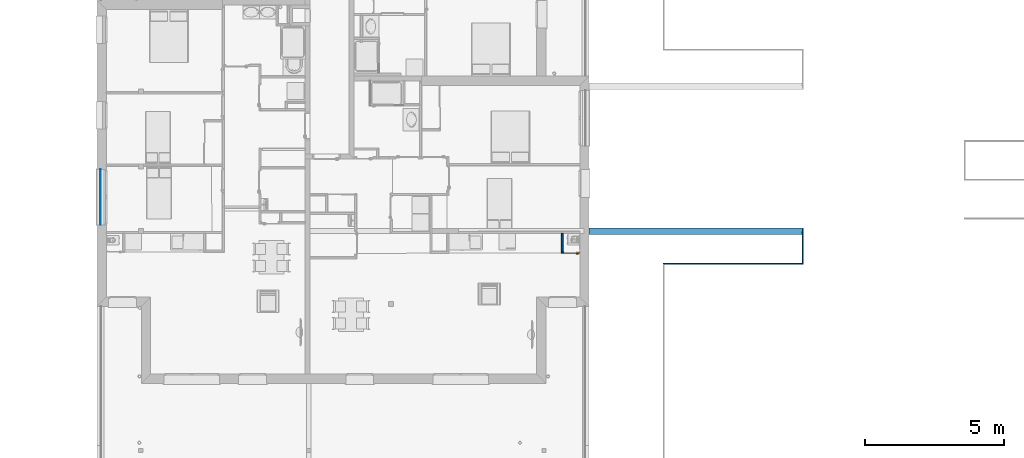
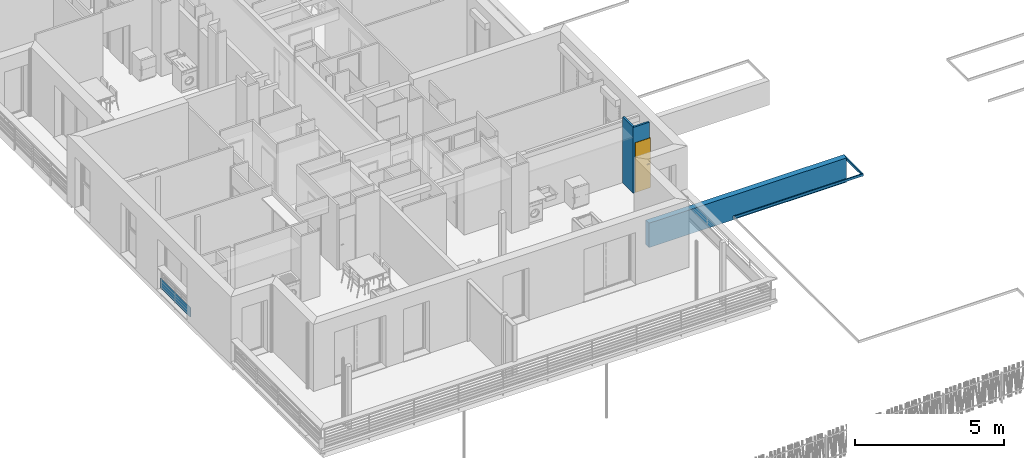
# One storey, part 26 of 171: 6 walls, 1 door, 1 opening.
"""IFC2X3 building model written with IfcOpenShell, lengths in millimetres."""

from ifc_helpers import new_model, entity, si_unit, converted_unit, derived_unit, money_unit, direction, frame, origin_with_axes, origin_2d_with_axis, place, context, subcontext, project, spatial, polyline, rectangle, outline, extrude, faceted_brep, source, transform, mapped, material, layer, layer_set, layer_usage, type_object, element, fill, save


model = new_model("IFC2X3")

# Units and contexts
model_context = context("Model", 3, precision=0.01, world=origin_with_axes(), true_north=direction((0.0, 1.0)))
body_context = subcontext(model_context, "Body", "Model", "MODEL_VIEW")
ifc_project = project(units=[si_unit("LENGTHUNIT", "METRE", prefix="MILLI"), si_unit("AREAUNIT", "SQUARE_METRE"), si_unit("VOLUMEUNIT", "CUBIC_METRE"), converted_unit("PLANEANGLEUNIT", "DEGREE", entity("IfcPlaneAngleMeasure", 0.0174532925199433), si_unit("PLANEANGLEUNIT", "RADIAN"), dimensions=[0, 0, 0, 0, 0, 0, 0]), money_unit("USD"), converted_unit("TIMEUNIT", "Year", entity("IfcTimeMeasure", 31557600.0), si_unit("TIMEUNIT", "SECOND"), dimensions=[0, 0, 1, 0, 0, 0, 0]), si_unit("MASSUNIT", "GRAM", prefix="KILO"), si_unit("THERMODYNAMICTEMPERATUREUNIT", "DEGREE_CELSIUS"), si_unit("LUMINOUSINTENSITYUNIT", "LUMEN"), si_unit("ENERGYUNIT", "JOULE", prefix="MEGA"), derived_unit("THERMALCONDUCTANCEUNIT", [(si_unit("POWERUNIT", "WATT"), 1), (si_unit("LENGTHUNIT", "METRE"), -1), (si_unit("THERMODYNAMICTEMPERATUREUNIT", "KELVIN"), -1)]), derived_unit("SPECIFICHEATCAPACITYUNIT", [(si_unit("ENERGYUNIT", "JOULE"), 1), (si_unit("MASSUNIT", "GRAM", prefix="KILO"), -1), (si_unit("THERMODYNAMICTEMPERATUREUNIT", "KELVIN"), -1)]), derived_unit("MASSDENSITYUNIT", [(si_unit("MASSUNIT", "GRAM", prefix="KILO"), 1), (si_unit("VOLUMEUNIT", "CUBIC_METRE"), -1)])], contexts=[model_context])

# Site, building, storey
site_placement = place(None, origin_with_axes())
site = spatial("IfcSite", under=ifc_project, at=site_placement, Name="Site", CompositionType="ELEMENT")
building_placement = place(site_placement, origin_with_axes())
building = spatial("IfcBuilding", under=site, at=building_placement, Name="Bâtiment", CompositionType="ELEMENT")
storey_placement = place(building_placement, frame((0.0, 0.0, 3000.0), z_axis=(0.0, 0.0, 1.0), x_axis=(1.0, 0.0, 0.0)))
storey = spatial("IfcBuildingStorey", under=building, at=storey_placement, Name="rdc", CompositionType="ELEMENT", Elevation=3000.0)

# Wall, opening, door
ifc_material_1 = material(Name="Hachure solide 268963992")
ifc_layer_1 = layer(ifc_material_1, 70.0, ventilated="UNKNOWN")
ifc_layer_set_1 = layer_set([ifc_layer_1], Name="Cloison 70 0826278243")
ifc_layer_usage_1 = layer_usage(ifc_layer_set_1, "AXIS2", "NEGATIVE", 70.0)
wall_type_1 = type_object("IfcWallType", Name="Cloison 70 0826278243 70", PredefinedType="NOTDEFINED")
wall_1_placement = place(storey_placement, frame((2233350.851378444, -653126.9364621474, 0.0), z_axis=(0.0, 0.0, 1.0), x_axis=(1.0, 0.0, 0.0)))
wall_1 = element("IfcWallStandardCase", 1, at=wall_1_placement, inside=storey, type_object=wall_type_1, material=ifc_layer_usage_1, Name="Mur-149", context=body_context, shape_type="SweptSolid", body=[
    extrude(outline(polyline([(0.0, 0.0), (624.439567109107, 0.0), (624.439567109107, 69.99999999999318), (70.00000000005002, 69.99999999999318), (0.0, 0.0)])), origin_with_axes(), (0.0, 0.0, 1.0), 2700.0),
])
opening_placement = place(wall_1_placement, frame((370.0000000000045, 0.0, 0.0), z_axis=(0.0, 0.0, 1.0), x_axis=(1.0, 0.0, 0.0)))
opening = element("IfcOpeningElement", 2, at=opening_placement, cuts=wall_1, Name="Por-274", context=body_context, shape_type="SweptSolid", body=[
    extrude(rectangle(XDim=599.9999999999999, YDim=2050.0, at=origin_2d_with_axis()), frame((0.0, 69.99999999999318, 1025.0), z_axis=(0.0, -1.0, 0.0), x_axis=(-1.0, 0.0, 0.0)), (0.0, 0.0, 1.0), 140.0),
])
door_style = type_object("IfcDoorStyle", Name="Porte_1v", ConstructionType="NOTDEFINED", OperationType="NOTDEFINED", ParameterTakesPrecedence=False, Sizeable=False)
shared_shape = source(origin_with_axes(), body_context, "Body", "Brep", [
    faceted_brep([(300.0, 0.0, 0.0), (290.0, 0.0, 0.0), (290.0, 0.0, 2040.0), (-290.0, 0.0, 2040.0), (-290.0, 0.0, 0.0), (-300.0, 0.0, 0.0), (-300.0, 0.0, 2050.0), (300.0, 0.0, 2050.0), (300.0, -70.0, 0.0), (279.9999999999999, -70.0, 0.0), (279.9999999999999, -15.0, 0.0), (290.0, -15.0, 0.0), (290.0, -15.0, 2040.0), (-290.0, -15.0, 2040.0), (-290.0, -15.0, 0.0), (-279.9999999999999, -15.0, 0.0), (-279.9999999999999, -70.0, 0.0), (-300.0, -70.0, 0.0), (-300.0, -70.0, 2050.0), (300.0, -70.0, 2050.0), (-279.9999999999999, -70.0, 2030.0), (279.9999999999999, -70.0, 2030.0), (279.9999999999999, -15.0, 2030.0), (-279.9999999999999, -15.0, 2030.0)], [[[0, 1, 2, 3, 4, 5, 6, 7]], [[0, 8, 9, 10, 11, 1]], [[1, 11, 12, 2]], [[2, 12, 13, 3]], [[3, 13, 14, 4]], [[5, 4, 14, 15, 16, 17]], [[18, 6, 5, 17]], [[19, 7, 6, 18]], [[8, 0, 7, 19]], [[9, 8, 19, 18, 17, 16, 20, 21]], [[10, 9, 21, 22]], [[11, 10, 22, 23, 15, 14, 13, 12]], [[23, 20, 16, 15]], [[22, 21, 20, 23]]]),
    faceted_brep([(-224.9999999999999, -15.0, 900.0), (-264.9999999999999, -15.0, 900.0), (-264.9999999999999, -15.0, 1100.0), (-224.9999999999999, -15.0, 1100.0), (-224.9999999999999, -25.0, 900.0), (-264.9999999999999, -25.0, 900.0), (-264.9999999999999, -25.0, 1100.0), (-224.9999999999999, -25.0, 1100.0)], [[[0, 1, 2, 3]], [[1, 0, 4, 5]], [[2, 1, 5, 6]], [[3, 2, 6, 7]], [[0, 3, 7, 4]], [[5, 4, 7, 6]]]),
    faceted_brep([(-154.9999999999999, -25.0, 1000.0), (-254.9999999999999, -25.0, 1000.0), (-254.9999999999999, -25.0, 1020.0), (-154.9999999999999, -25.0, 1020.0), (-154.9999999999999, -45.0, 1000.0), (-254.9999999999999, -45.0, 1000.0), (-254.9999999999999, -45.0, 1020.0), (-154.9999999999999, -45.0, 1020.0)], [[[0, 1, 2, 3]], [[1, 0, 4, 5]], [[2, 1, 5, 6]], [[3, 2, 6, 7]], [[0, 3, 7, 4]], [[5, 4, 7, 6]]]),
    faceted_brep([(-224.9999999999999, 15.0, 900.0), (-264.9999999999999, 15.0, 900.0), (-264.9999999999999, 15.0, 1100.0), (-224.9999999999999, 15.0, 1100.0), (-224.9999999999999, 5.000000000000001, 900.0), (-264.9999999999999, 5.000000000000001, 900.0), (-264.9999999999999, 5.000000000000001, 1100.0), (-224.9999999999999, 5.000000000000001, 1100.0)], [[[0, 1, 2, 3]], [[1, 0, 4, 5]], [[2, 1, 5, 6]], [[3, 2, 6, 7]], [[0, 3, 7, 4]], [[5, 4, 7, 6]]]),
    faceted_brep([(-154.9999999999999, 35.0, 1000.0), (-254.9999999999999, 35.0, 1000.0), (-254.9999999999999, 35.0, 1020.0), (-154.9999999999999, 35.0, 1020.0), (-154.9999999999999, 15.0, 1000.0), (-254.9999999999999, 15.0, 1000.0), (-254.9999999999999, 15.0, 1020.0), (-154.9999999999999, 15.0, 1020.0)], [[[0, 1, 2, 3]], [[1, 0, 4, 5]], [[2, 1, 5, 6]], [[3, 2, 6, 7]], [[0, 3, 7, 4]], [[5, 4, 7, 6]]]),
    faceted_brep([(-290.0, 5.000000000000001, 0.0), (290.0, 5.000000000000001, 0.0), (290.0, -15.0, 0.0), (-290.0, -15.0, 0.0), (-290.0, 5.000000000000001, 2040.0), (290.0, 5.000000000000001, 2040.0), (290.0, -15.0, 2040.0), (-290.0, -15.0, 2040.0)], [[[0, 1, 2, 3]], [[0, 4, 5, 1]], [[1, 5, 6, 2]], [[3, 2, 6, 7]], [[4, 0, 3, 7]], [[5, 4, 7, 6]]]),
])
door_placement = place(opening_placement, frame((290.0000000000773, 0.0, 0.0), z_axis=(0.0, 0.0, 1.0), x_axis=(-1.0, 0.0, 0.0)))
door = element("IfcDoor", 3, at=door_placement, inside=storey, type_object=door_style, Name="Por-274", OverallHeight=2040.0, OverallWidth=580.0, context=body_context, shape_type="MappedRepresentation", body=[
    mapped(shared_shape, transform((289.9999999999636, 0.0, 0.0))),
])
fill(opening, door)

# Walls
ifc_layer_usage_2 = layer_usage(ifc_layer_set_1, "AXIS2", "NEGATIVE", 70.0)
wall_2_placement = place(storey_placement, frame((2233350.851378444, -652410.4383313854, 0.0), z_axis=(0.0, 0.0, 1.0), x_axis=(0.0, -1.0, 0.0)))
element("IfcWallStandardCase", 4, at=wall_2_placement, inside=storey, type_object=wall_type_1, material=ifc_layer_usage_2, Name="Mur-149", context=body_context, shape_type="SweptSolid", body=[
    extrude(outline(polyline([(0.0, 0.0), (716.4981307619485, 0.0), (646.4981307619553, 70.00000000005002), (-0.04247912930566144, 70.00000000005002), (0.0, 0.0)])), origin_with_axes(), (0.0, 0.0, 1.0), 2700.0),
])
ifc_material_2 = material(Name="MANQUANT")
ifc_layer_2 = layer(ifc_material_2, 20.0, ventilated="UNKNOWN")
ifc_layer_set_2 = layer_set([ifc_layer_2], Name="MANQUANT 20")
ifc_layer_usage_3 = layer_usage(ifc_layer_set_2, "AXIS2", "POSITIVE", -20.0)
wall_type_2 = type_object("IfcWallType", Name="MANQUANT 20", PredefinedType="NOTDEFINED")
wall_3_placement = place(storey_placement, frame((2216759.414776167, -652103.6499936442, 100.0000000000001), z_axis=(0.0, 0.0, 1.0), x_axis=(0.0, 1.0, 0.0)))
element("IfcWallStandardCase", 5, at=wall_3_placement, inside=storey, type_object=wall_type_2, material=ifc_layer_usage_3, Name="Mur-150", context=body_context, shape_type="SweptSolid", body=[
    extrude(outline(polyline([(0.0, -19.99999999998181), (1999.999999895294, -19.99999999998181), (1999.999999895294, 0.0), (0.0, 0.0), (0.0, -19.99999999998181)])), origin_with_axes(), (0.0, 0.0, 1.0), 400.0),
])
ifc_material_3 = material(Name="Empty Fill 292498448")
ifc_layer_3 = layer(ifc_material_3, 40.0, ventilated="UNKNOWN")
ifc_layer_set_3 = layer_set([ifc_layer_3], Name="mur 4cm")
ifc_layer_usage_4 = layer_usage(ifc_layer_set_3, "AXIS2", "NEGATIVE", 40.0)
wall_type_3 = type_object("IfcWallType", Name="mur 4cm 40", PredefinedType="NOTDEFINED")
wall_4_placement = place(storey_placement, frame((2242056.657583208, -653522.7055840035, -2100.0), z_axis=(0.0, 0.0, 1.0), x_axis=(0.0, 1.0, 0.0)))
element("IfcWallStandardCase", 6, at=wall_4_placement, inside=storey, type_object=wall_type_3, material=ifc_layer_usage_4, Name="Mur-167", context=body_context, shape_type="SweptSolid", body=[
    extrude(outline(polyline([(1.4210854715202e-10, 0.0), (1299.40969041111, 0.0), (1079.409690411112, 39.99999999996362), (40.00000000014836, 39.99999999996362), (1.4210854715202e-10, 0.0)])), origin_with_axes(), (0.0, 0.0, 1.0), 100.0),
])
ifc_layer_usage_5 = layer_usage(ifc_layer_set_3, "AXIS2", "POSITIVE", -40.0)
wall_5_placement = place(storey_placement, frame((2242056.657583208, -653522.7055840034, -2100.0), z_axis=(0.0, 0.0, 1.0), x_axis=(-1.0, 0.0, 0.0)))
element("IfcWallStandardCase", 7, at=wall_5_placement, inside=storey, type_object=wall_type_3, material=ifc_layer_usage_5, Name="Mur-152", context=body_context, shape_type="SweptSolid", body=[
    extrude(outline(polyline([(39.99999999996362, -40.00000000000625), (5039.999999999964, -40.00000000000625), (5000.0, 0.0), (0.0, 0.0), (39.99999999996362, -40.00000000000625)])), origin_with_axes(), (0.0, 0.0, 1.0), 100.0),
])
ifc_material_4 = material(Name="Parpaing 314940890")
ifc_layer_4 = layer(ifc_material_4, 220.0, ventilated="UNKNOWN")
ifc_layer_set_4 = layer_set([ifc_layer_4], Name="Beton  22 0018356637")
ifc_layer_usage_6 = layer_usage(ifc_layer_set_4, "AXIS2", "POSITIVE", -220.0)
wall_type_4 = type_object("IfcWallType", Name="Beton  22 0018356637 220", PredefinedType="NOTDEFINED")
wall_6_placement = place(storey_placement, frame((2234356.671296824, -652223.2958935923, -3000.0), z_axis=(0.0, 0.0, 1.0), x_axis=(1.0, 0.0, 0.0)))
element("IfcWallStandardCase", 8, at=wall_6_placement, inside=storey, type_object=wall_type_4, material=ifc_layer_usage_6, Name="Mur-150", context=body_context, shape_type="SweptSolid", body=[
    extrude(outline(polyline([(0.0, -219.9999999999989), (7659.986286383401, -219.9999999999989), (7699.986286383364, 0.0), (0.0, 0.0), (0.0, -219.9999999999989)])), origin_with_axes(), (0.0, 0.0, 1.0), 999.9999999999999),
])

save(model, "model.ifc")
